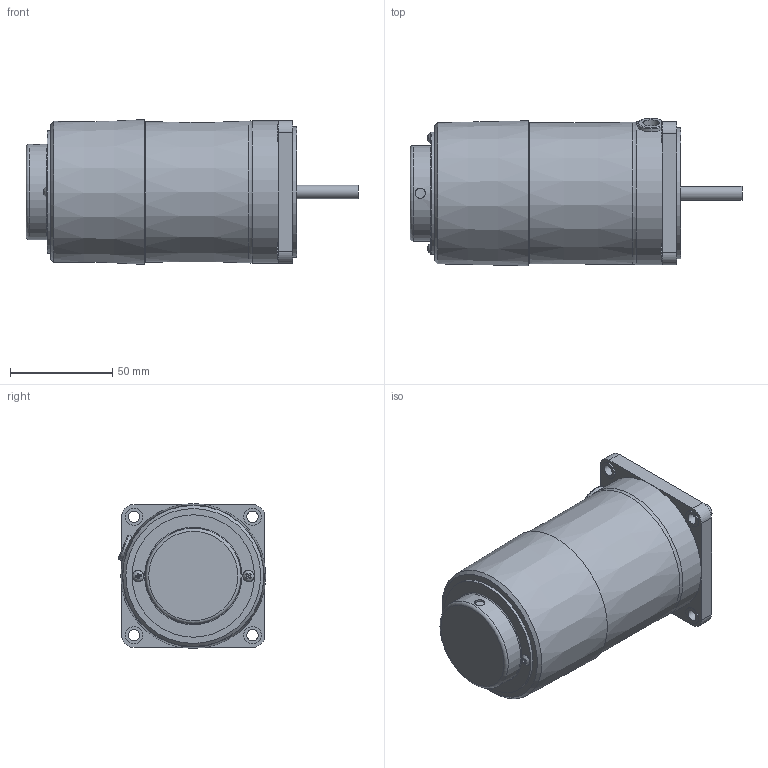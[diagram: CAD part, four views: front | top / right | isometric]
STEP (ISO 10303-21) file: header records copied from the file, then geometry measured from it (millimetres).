
FILE_DESCRIPTION((''),'2;1');
FILE_NAME('D:\STP파일\15W MOTOR\ES TYPE\S7R15S-ES.stp','2013-05-20T16:22:45',('leebh'),(''),'Autodesk Inventor 2011','Autodesk Inventor 2011','');
FILE_SCHEMA(('AUTOMOTIVE_DESIGN { 1 0 10303 214 1 1 1 1 }'));
Length unit declared in the file: millimetre
Products named in the file (1): 부품2
Bounding box: 162.5 x 72.2 x 70.94 mm (x, y, z)
Volume: 477303.3 mm3; surface area: 42738.4 mm2
Topology: 1 solids, 7 shells, 157 faces, 365 edges, 237 vertices
Faces by surface type: plane 96, cylinder 46, torus 9, cone 4, bspline 2
Full cylindrical faces by diameter (mm): 3 x2, 3.5 x2, 5 x1, 5.5 x4, 5.6 x2, 6.5 x2, 6.7 x1, 8 x1, 8.5 x4, 10 x1, 28 x1, 44.7 x1, 46.7 x1, 47.7 x1, 59.9 x1, 64 x1, 68 x1, 70 x1
Entity records: 4470 total; most frequent: CARTESIAN_POINT 1027, DIRECTION 706, ORIENTED_EDGE 614, EDGE_CURVE 307, AXIS2_PLACEMENT_3D 277, EDGE_LOOP 230, VERTEX_POINT 221, FACE_OUTER_BOUND 157
